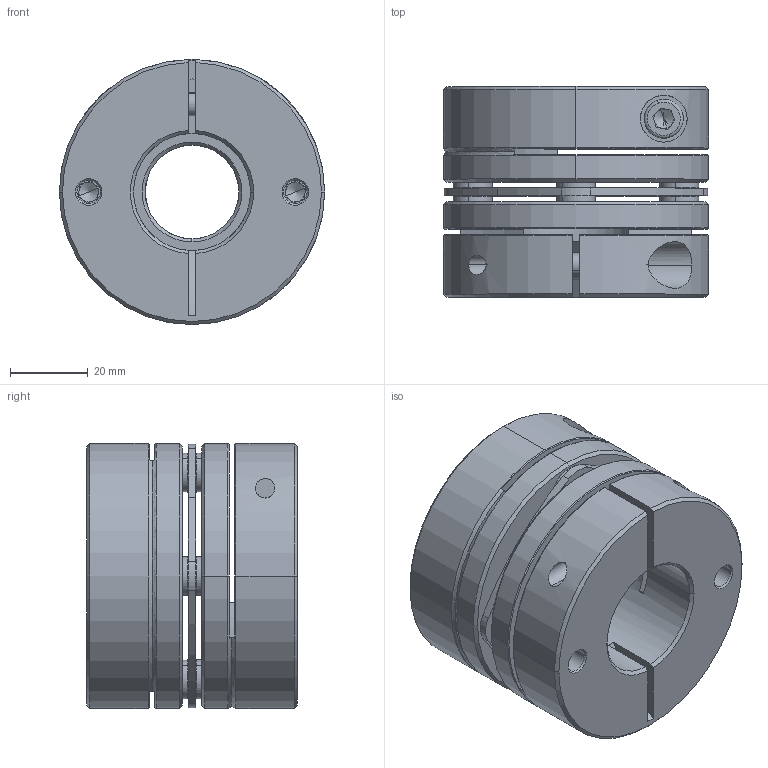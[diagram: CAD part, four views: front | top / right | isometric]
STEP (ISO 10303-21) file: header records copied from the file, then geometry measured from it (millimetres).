
FILE_DESCRIPTION (( 'STEP AP203' ), '1' );
FILE_NAME ('LD1-D68-24-30.STEP', '2021-10-26T08:01:10', ( '' ), ( '' ), 'SwSTEP 2.0', 'SolidWorks 2018', '' );
FILE_SCHEMA (( 'CONFIG_CONTROL_DESIGN' ));
Length unit declared in the file: millimetre
Products named in the file (2): 錨璃101^LD1-D68; LD1-D68-24-30
Assembly tree (1 placements, depth 2):
  LD1-D68-24-30
    錨璃101^LD1-D68
Bounding box: 68 x 54 x 68 mm (x, y, z)
Volume: 138914.4 mm3; surface area: 45694.2 mm2
Topology: 1 solids, 15 shells, 441 faces, 1047 edges, 642 vertices
Faces by surface type: cylinder 161, plane 136, cone 122, torus 22
Entity records: 13321 total; most frequent: CARTESIAN_POINT 2590, DIRECTION 2405, ORIENTED_EDGE 2062, EDGE_CURVE 1031, AXIS2_PLACEMENT_3D 977, VERTEX_POINT 642, CIRCLE 532, EDGE_LOOP 521
